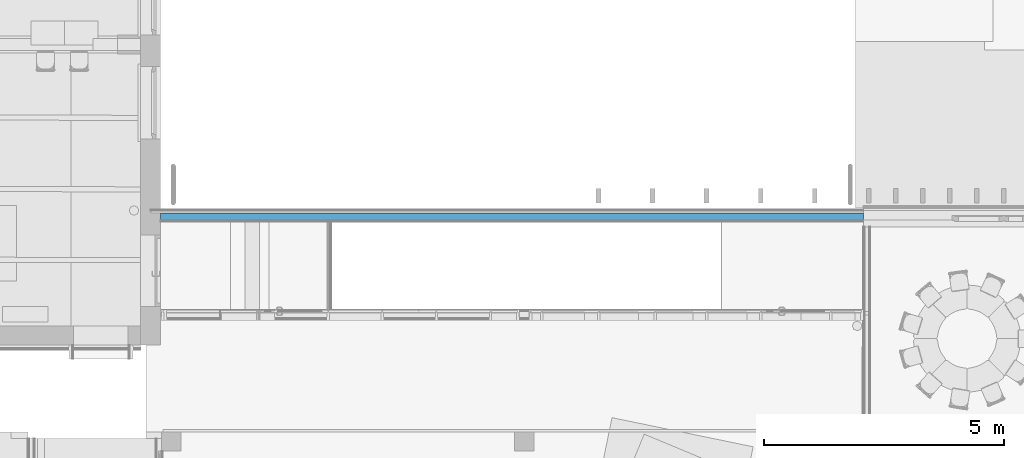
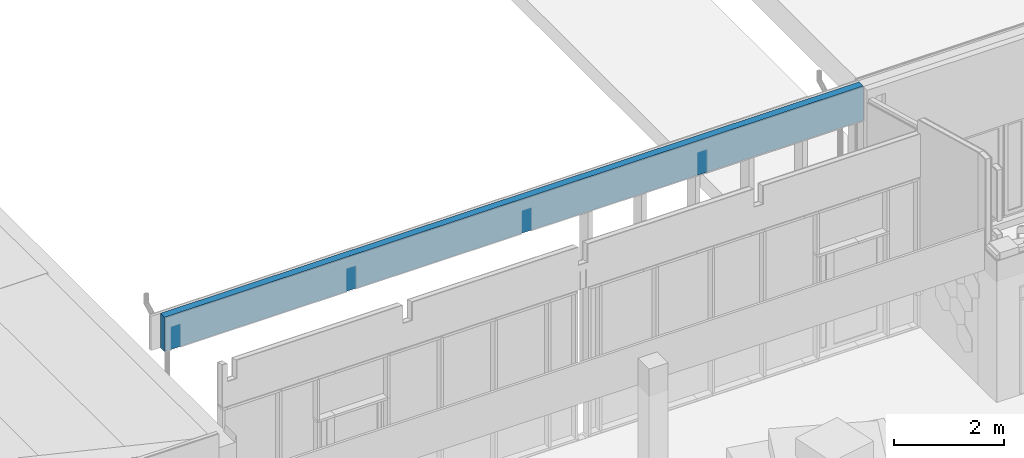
# One storey, part 65 of 153: 1 building element part, 1 element without a shape of its own.
"""IFC2X3 building model written with IfcOpenShell, lengths in millimetres."""

from ifc_helpers import new_model, entity, si_unit, converted_unit, derived_unit, money_unit, direction, frame, origin_with_axes, place, context, subcontext, project, spatial, faceted_brep, material, type_object, element, aggregate, save


model = new_model("IFC2X3")

# Units and contexts
model_context = context("Model", 3, precision=0.01, world=origin_with_axes(), true_north=direction((0.0, 1.0)))
body_context = subcontext(model_context, "Body", "Model", "MODEL_VIEW")
ifc_project = project(units=[si_unit("LENGTHUNIT", "METRE", prefix="MILLI"), si_unit("AREAUNIT", "SQUARE_METRE"), si_unit("VOLUMEUNIT", "CUBIC_METRE"), converted_unit("PLANEANGLEUNIT", "DEGREE", entity("IfcPlaneAngleMeasure", 0.0174532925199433), si_unit("PLANEANGLEUNIT", "RADIAN"), dimensions=[0, 0, 0, 0, 0, 0, 0]), money_unit("EUR"), converted_unit("TIMEUNIT", "Year", entity("IfcTimeMeasure", 31557600.0), si_unit("TIMEUNIT", "SECOND"), dimensions=[0, 0, 1, 0, 0, 0, 0]), si_unit("MASSUNIT", "GRAM", prefix="KILO"), si_unit("THERMODYNAMICTEMPERATUREUNIT", "DEGREE_CELSIUS"), si_unit("LUMINOUSINTENSITYUNIT", "LUMEN"), si_unit("ENERGYUNIT", "JOULE", prefix="MEGA"), derived_unit("THERMALCONDUCTANCEUNIT", [(si_unit("POWERUNIT", "WATT"), 1), (si_unit("LENGTHUNIT", "METRE"), -1), (si_unit("THERMODYNAMICTEMPERATUREUNIT", "KELVIN"), -1)]), derived_unit("SPECIFICHEATCAPACITYUNIT", [(si_unit("ENERGYUNIT", "JOULE"), 1), (si_unit("MASSUNIT", "GRAM", prefix="KILO"), -1), (si_unit("THERMODYNAMICTEMPERATUREUNIT", "KELVIN"), -1)]), derived_unit("MASSDENSITYUNIT", [(si_unit("MASSUNIT", "GRAM", prefix="KILO"), 1), (si_unit("VOLUMEUNIT", "CUBIC_METRE"), -1)])], contexts=[model_context])

# Site, building, storey
site_placement = place(None, frame((0.0, 0.0, 8650.0), z_axis=(0.0, 0.0, 1.0), x_axis=(1.0, 0.0, 0.0)))
site = spatial("IfcSite", under=ifc_project, at=site_placement, Name="43301:001:0844", CompositionType="ELEMENT")
building_placement = place(site_placement, origin_with_axes())
building = spatial("IfcBuilding", under=site, at=building_placement, Name="Kuressaare Ametikooli tuulikute mehaanikute õppekorpus", CompositionType="ELEMENT")
storey_placement = place(building_placement, frame((0.0, 0.0, 4100.0), z_axis=(0.0, 0.0, 1.0), x_axis=(1.0, 0.0, 0.0)))
storey = spatial("IfcBuildingStorey", under=building, at=storey_placement, Name="2.korrus", CompositionType="ELEMENT", Elevation=4100.0)

# Wall, building element part
wall_type = type_object("IfcWallType", Name="VS_klaasfassaadi peal 246", PredefinedType="NOTDEFINED")
wall_placement = place(storey_placement, frame((103647.5122070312, 28356.59477213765, 3332.284635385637), z_axis=(0.0, 0.0, 1.0), x_axis=(1.0, 0.0, 0.0)))
wall = element("IfcWall", 1, at=wall_placement, inside=storey, type_object=wall_type, Name="Välissein")
ifc_material = material(Name="Soojustus - Mineraalvill pehme")
building_element_part_placement = place(wall_placement, origin_with_axes())
building_element_part = element("IfcBuildingElementPart", 2, at=building_element_part_placement, material=ifc_material, Name="Soojustus - Mineraalvill pehme", context=body_context, shape_type="Brep", body=[
    faceted_brep([(12414.58518066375, 132.9732973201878, 0.0), (12414.58518066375, 22.99999999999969, 0.0), (11345.43716757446, 22.99999999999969, 0.0), (11345.43716757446, 27.4760278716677, 0.0), (11145.43716757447, 27.4760278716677, 0.0), (11145.43716757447, 22.99999999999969, 0.0), (10314.58518066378, 22.99999999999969, 0.0), (10314.58518066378, 132.9732973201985, 0.0), (10311.90568873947, 142.9732973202, 0.0), (10304.58518066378, 150.2938053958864, 0.0), (10294.58518066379, 152.973297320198, 0.0), (10184.58518066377, 152.973297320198, 0.0), (10174.58518066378, 150.2938053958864, 0.0), (10167.26467258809, 142.9732973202, 0.0), (10164.58518066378, 132.9732973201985, 0.0), (10164.58518066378, 22.99999999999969, 0.0), (8069.593654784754, 22.99999999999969, 0.0), (8069.593654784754, 132.9732973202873, 0.0), (8066.914162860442, 142.9732973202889, 0.0), (8059.593654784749, 150.2938053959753, 0.0), (8049.593654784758, 152.9732973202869, 0.0), (7939.593654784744, 152.9732973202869, 0.0), (7929.593654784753, 150.2938053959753, 0.0), (7922.27314670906, 142.9732973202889, 0.0), (7919.593654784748, 132.9732973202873, 0.0), (7919.593654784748, 22.99999999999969, 0.0), (7670.437167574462, 22.99999999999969, 0.0), (7670.437167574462, 27.48078871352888, 0.0), (7470.437167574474, 27.48078871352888, 0.0), (7470.437167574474, 22.99999999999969, 0.0), (5819.585180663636, 22.99999999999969, 0.0), (5819.585180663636, 132.9732973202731, 0.0), (5816.905688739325, 142.9732973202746, 0.0), (5809.585180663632, 150.293805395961, 0.0), (5799.585180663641, 152.9732973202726, 0.0), (5689.585180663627, 152.9732973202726, 0.0), (5679.585180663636, 150.293805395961, 0.0), (5672.264672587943, 142.9732973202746, 0.0), (5669.585180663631, 132.9732973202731, 0.0), (5669.585180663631, 22.99999999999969, 0.0), (3995.437167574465, 22.99999999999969, 0.0), (3995.437167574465, 27.48078871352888, 0.0), (3795.437167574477, 27.48078871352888, 0.0), (3795.437167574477, 22.99999999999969, 0.0), (3569.585180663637, 22.99999999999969, 0.0), (3569.585180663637, 132.9732973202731, 0.0), (3566.905688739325, 142.9732973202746, 0.0), (3559.585180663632, 150.293805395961, 0.0), (3549.585180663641, 152.9732973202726, 0.0), (3439.585180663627, 152.9732973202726, 0.0), (3429.585180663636, 150.293805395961, 0.0), (3422.264672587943, 142.9732973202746, 0.0), (3419.585180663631, 132.9732973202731, 0.0), (3419.585180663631, 22.99999999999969, 0.0), (320.439934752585, 22.99999999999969, 0.0), (320.439934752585, 27.47602787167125, 0.0), (169.5851806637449, 27.47602787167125, 0.0), (169.5851806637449, 132.9732973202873, 0.0), (166.9056887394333, 142.9732973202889, 0.0), (159.5851806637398, 150.2938053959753, 0.0), (149.5851806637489, 152.9732973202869, 0.0), (39.58518066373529, 152.9732973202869, 0.0), (29.58518066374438, 150.2938053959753, 0.0), (22.26467258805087, 142.9732973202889, 0.0), (19.58518066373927, 132.9732973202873, 0.0), (19.58518066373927, 22.99999999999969, 0.0), (2.764821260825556e-06, 22.99999999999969, 0.0), (-8.989417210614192e-05, 172.9999999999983, 0.0), (14633.76352335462, 173.0000000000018, 0.0), (14633.76352335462, 22.99999999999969, 0.0), (12564.58518066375, 22.99999999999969, 0.0), (12564.58518066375, 132.9732973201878, 0.0), (12561.90568873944, 142.9732973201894, 0.0), (12554.58518066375, 150.2938053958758, 0.0), (12544.58518066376, 152.9732973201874, 0.0), (12434.58518066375, 152.9732973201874, 0.0), (12424.58518066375, 150.2938053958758, 0.0), (12417.26467258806, 142.9732973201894, 0.0), (12414.58518066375, 132.9732973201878, 17.7153646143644), (12414.58518066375, 22.99999999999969, 17.7153646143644), (12564.58518066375, 22.99999999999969, 17.7153646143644), (14633.76352335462, 22.99999999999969, 762.3602261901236), (2.764821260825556e-06, 22.99999999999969, 762.3602261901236), (19.58518066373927, 22.99999999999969, 17.7153646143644), (27.58518066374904, 22.99999999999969, 17.7153646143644), (27.58518066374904, 22.99999999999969, 0.0), (120.4399347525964, 22.99999999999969, 0.0), (120.4399347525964, 22.99999999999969, 512.2518524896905), (320.439934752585, 22.99999999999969, 512.2518524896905), (3419.585180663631, 22.99999999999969, 17.7153646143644), (3427.585180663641, 22.99999999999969, 17.7153646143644), (3427.585180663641, 22.99999999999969, 0.0), (3561.585180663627, 22.99999999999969, 0.0), (3561.585180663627, 22.99999999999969, 17.7153646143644), (3569.585180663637, 22.99999999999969, 17.7153646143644), (3795.437167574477, 22.99999999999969, 512.2531281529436), (3995.437167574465, 22.99999999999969, 512.2531281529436), (5669.585180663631, 22.99999999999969, 17.7153646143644), (5677.585180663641, 22.99999999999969, 17.7153646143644), (5677.585180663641, 22.99999999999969, 0.0), (5811.585180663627, 22.99999999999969, 0.0), (5811.585180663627, 22.99999999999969, 17.7153646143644), (5819.585180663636, 22.99999999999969, 17.7153646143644), (7470.437167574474, 22.99999999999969, 512.2531281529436), (7670.437167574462, 22.99999999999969, 512.2531281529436), (7919.593654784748, 22.99999999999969, 17.7153646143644), (7927.593654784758, 22.99999999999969, 17.7153646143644), (7927.593654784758, 22.99999999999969, 0.0), (8061.593654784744, 22.99999999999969, 0.0), (8061.593654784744, 22.99999999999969, 17.7153646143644), (8069.593654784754, 22.99999999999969, 17.7153646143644), (10164.58518066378, 22.99999999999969, 17.7153646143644), (10172.58518066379, 22.99999999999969, 17.7153646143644), (10172.58518066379, 22.99999999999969, 0.0), (10306.58518066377, 22.99999999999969, 0.0), (10306.58518066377, 22.99999999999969, 17.7153646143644), (10314.58518066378, 22.99999999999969, 17.7153646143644), (11145.43716757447, 22.99999999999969, 512.2518524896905), (11345.43716757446, 22.99999999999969, 512.2518524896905), (12422.58518066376, 22.99999999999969, 17.7153646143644), (12422.58518066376, 22.99999999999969, 0.0), (12556.58518066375, 22.99999999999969, 0.0), (12556.58518066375, 22.99999999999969, 17.7153646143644), (11345.43716757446, 27.4760278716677, 511.052504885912), (11145.43716757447, 27.4760278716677, 511.052504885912), (10314.58518066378, 132.9732973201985, 17.7153646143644), (10311.90568873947, 142.9732973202, 17.7153646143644), (10304.58518066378, 150.2938053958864, 17.7153646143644), (10294.58518066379, 152.973297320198, 17.7153646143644), (10184.58518066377, 152.973297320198, 17.7153646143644), (10174.58518066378, 150.2938053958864, 17.7153646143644), (10167.26467258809, 142.9732973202, 17.7153646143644), (10164.58518066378, 132.9732973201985, 17.7153646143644), (8069.593654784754, 132.9732973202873, 17.7153646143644), (8066.914162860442, 142.9732973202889, 17.7153646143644), (8059.593654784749, 150.2938053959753, 17.7153646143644), (8049.593654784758, 152.9732973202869, 17.7153646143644), (7939.593654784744, 152.9732973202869, 17.7153646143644), (7929.593654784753, 150.2938053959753, 17.7153646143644), (7922.27314670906, 142.9732973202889, 17.7153646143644), (7919.593654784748, 132.9732973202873, 17.7153646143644), (7670.437167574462, 27.48078871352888, 511.0525048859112), (7470.437167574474, 27.48078871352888, 511.0525048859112), (5819.585180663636, 132.9732973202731, 17.7153646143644), (5816.905688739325, 142.9732973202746, 17.7153646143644), (5809.585180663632, 150.293805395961, 17.7153646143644), (5799.585180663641, 152.9732973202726, 17.7153646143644), (5689.585180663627, 152.9732973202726, 17.7153646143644), (5679.585180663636, 150.293805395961, 17.7153646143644), (5672.264672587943, 142.9732973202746, 17.7153646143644), (5669.585180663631, 132.9732973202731, 17.7153646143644), (3995.437167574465, 27.48078871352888, 511.0525048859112), (3795.437167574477, 27.48078871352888, 511.0525048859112), (3569.585180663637, 132.9732973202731, 17.7153646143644), (3566.905688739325, 142.9732973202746, 17.7153646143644), (3559.585180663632, 150.293805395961, 17.7153646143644), (3549.585180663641, 152.9732973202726, 17.7153646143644), (3439.585180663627, 152.9732973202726, 17.7153646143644), (3429.585180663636, 150.293805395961, 17.7153646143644), (3422.264672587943, 142.9732973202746, 17.7153646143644), (3419.585180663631, 132.9732973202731, 17.7153646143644), (320.439934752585, 27.47602787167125, 511.0525048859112), (169.5851806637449, 27.47602787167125, 17.7153646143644), (120.4399347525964, 27.47602787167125, 511.0525048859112), (120.4399347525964, 27.47602787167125, 0.0), (161.5851806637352, 27.47602787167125, 0.0), (161.5851806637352, 27.47602787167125, 17.7153646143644), (169.5851806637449, 132.9732973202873, 17.7153646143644), (166.9056887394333, 142.9732973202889, 17.7153646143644), (159.5851806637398, 150.2938053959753, 17.7153646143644), (149.5851806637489, 152.9732973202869, 17.7153646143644), (39.58518066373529, 152.9732973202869, 17.7153646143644), (29.58518066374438, 150.2938053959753, 17.7153646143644), (22.26467258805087, 142.9732973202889, 17.7153646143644), (19.58518066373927, 132.9732973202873, 17.7153646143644), (-8.989417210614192e-05, 173.0000000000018, 762.3602261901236), (14633.76352335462, 173.0000000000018, 762.3602261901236), (12564.58518066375, 132.9732973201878, 17.7153646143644), (12561.90568873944, 142.9732973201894, 17.7153646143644), (12554.58518066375, 150.2938053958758, 17.7153646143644), (12544.58518066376, 152.9732973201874, 17.7153646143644), (12434.58518066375, 152.9732973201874, 17.7153646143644), (12424.58518066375, 150.2938053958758, 17.7153646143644), (12417.26467258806, 142.9732973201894, 17.7153646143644), (12556.58518066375, 132.9732973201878, 17.7153646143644), (12553.07046203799, 141.4585786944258, 17.7153646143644), (12544.58518066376, 144.9732973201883, 17.7153646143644), (12434.58518066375, 144.9732973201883, 17.7153646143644), (12426.09989928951, 141.4585786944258, 17.7153646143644), (12422.58518066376, 132.9732973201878, 17.7153646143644), (161.5851806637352, 132.9732973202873, 17.7153646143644), (158.0704620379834, 141.4585786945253, 17.7153646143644), (149.5851806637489, 144.9732973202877, 17.7153646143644), (39.58518066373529, 144.9732973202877, 17.7153646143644), (31.09989928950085, 141.4585786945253, 17.7153646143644), (27.58518066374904, 132.9732973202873, 17.7153646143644), (27.58518066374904, 132.9732973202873, 0.0), (161.5851806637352, 132.9732973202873, 0.0), (31.09989928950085, 141.4585786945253, 0.0), (39.58518066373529, 144.9732973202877, 0.0), (149.5851806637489, 144.9732973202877, 0.0), (158.0704620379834, 141.4585786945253, 0.0), (3561.585180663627, 132.9732973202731, 17.7153646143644), (3558.070462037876, 141.4585786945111, 17.7153646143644), (3549.585180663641, 144.9732973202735, 17.7153646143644), (3439.585180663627, 144.9732973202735, 17.7153646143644), (3431.099899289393, 141.4585786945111, 17.7153646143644), (3427.585180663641, 132.9732973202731, 17.7153646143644), (3427.585180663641, 132.9732973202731, 0.0), (3561.585180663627, 132.9732973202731, 0.0), (3431.099899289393, 141.4585786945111, 0.0), (3439.585180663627, 144.9732973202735, 0.0), (3549.585180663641, 144.9732973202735, 0.0), (3558.070462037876, 141.4585786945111, 0.0), (5811.585180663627, 132.9732973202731, 17.7153646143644), (5808.070462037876, 141.4585786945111, 17.7153646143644), (5799.585180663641, 144.9732973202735, 17.7153646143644), (5689.585180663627, 144.9732973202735, 17.7153646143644), (5681.099899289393, 141.4585786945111, 17.7153646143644), (5677.585180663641, 132.9732973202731, 17.7153646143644), (5677.585180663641, 132.9732973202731, 0.0), (5811.585180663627, 132.9732973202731, 0.0), (5681.099899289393, 141.4585786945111, 0.0), (5689.585180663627, 144.9732973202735, 0.0), (5799.585180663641, 144.9732973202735, 0.0), (5808.070462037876, 141.4585786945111, 0.0), (8061.593654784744, 132.9732973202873, 17.7153646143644), (8058.078936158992, 141.4585786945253, 17.7153646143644), (8049.593654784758, 144.9732973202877, 17.7153646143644), (7939.593654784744, 144.9732973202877, 17.7153646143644), (7931.10837341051, 141.4585786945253, 17.7153646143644), (7927.593654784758, 132.9732973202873, 17.7153646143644), (7927.593654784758, 132.9732973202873, 0.0), (8061.593654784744, 132.9732973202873, 0.0), (7931.10837341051, 141.4585786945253, 0.0), (7939.593654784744, 144.9732973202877, 0.0), (8049.593654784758, 144.9732973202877, 0.0), (8058.078936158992, 141.4585786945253, 0.0), (10306.58518066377, 132.9732973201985, 17.7153646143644), (10303.07046203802, 141.4585786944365, 17.7153646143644), (10294.58518066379, 144.9732973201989, 17.7153646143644), (10184.58518066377, 144.9732973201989, 17.7153646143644), (10176.09989928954, 141.4585786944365, 17.7153646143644), (10172.58518066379, 132.9732973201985, 17.7153646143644), (10172.58518066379, 132.9732973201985, 0.0), (10306.58518066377, 132.9732973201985, 0.0), (10176.09989928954, 141.4585786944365, 0.0), (10184.58518066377, 144.9732973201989, 0.0), (10294.58518066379, 144.9732973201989, 0.0), (10303.07046203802, 141.4585786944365, 0.0), (12422.58518066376, 132.9732973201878, 0.0), (12556.58518066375, 132.9732973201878, 0.0), (12426.09989928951, 141.4585786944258, 0.0), (12434.58518066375, 144.9732973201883, 0.0), (12544.58518066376, 144.9732973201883, 0.0), (12553.07046203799, 141.4585786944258, 0.0)], [[[0, 1, 2, 3, 4, 5, 6, 7, 8, 9, 10, 11, 12, 13, 14, 15, 16, 17, 18, 19, 20, 21, 22, 23, 24, 25, 26, 27, 28, 29, 30, 31, 32, 33, 34, 35, 36, 37, 38, 39, 40, 41, 42, 43, 44, 45, 46, 47, 48, 49, 50, 51, 52, 53, 54, 55, 56, 57, 58, 59, 60, 61, 62, 63, 64, 65, 66, 67, 68, 69, 70, 71, 72, 73, 74, 75, 76, 77]], [[1, 0, 78, 79]], [[80, 70, 69, 81, 82, 66, 65, 83, 84, 85, 86, 87, 88, 54, 53, 89, 90, 91, 92, 93, 94, 44, 43, 95, 96, 40, 39, 97, 98, 99, 100, 101, 102, 30, 29, 103, 104, 26, 25, 105, 106, 107, 108, 109, 110, 16, 15, 111, 112, 113, 114, 115, 116, 6, 5, 117, 118, 2, 1, 79, 119, 120, 121, 122]], [[123, 3, 2, 118]], [[124, 4, 3, 123]], [[117, 5, 4, 124]], [[7, 6, 116, 125]], [[8, 7, 125, 126]], [[9, 8, 126, 127]], [[10, 9, 127, 128]], [[11, 10, 128, 129]], [[12, 11, 129, 130]], [[13, 12, 130, 131]], [[14, 13, 131, 132]], [[15, 14, 132, 111]], [[17, 16, 110, 133]], [[18, 17, 133, 134]], [[19, 18, 134, 135]], [[20, 19, 135, 136]], [[21, 20, 136, 137]], [[22, 21, 137, 138]], [[23, 22, 138, 139]], [[24, 23, 139, 140]], [[25, 24, 140, 105]], [[141, 27, 26, 104]], [[142, 28, 27, 141]], [[103, 29, 28, 142]], [[31, 30, 102, 143]], [[32, 31, 143, 144]], [[33, 32, 144, 145]], [[34, 33, 145, 146]], [[35, 34, 146, 147]], [[36, 35, 147, 148]], [[37, 36, 148, 149]], [[38, 37, 149, 150]], [[39, 38, 150, 97]], [[151, 41, 40, 96]], [[152, 42, 41, 151]], [[95, 43, 42, 152]], [[45, 44, 94, 153]], [[46, 45, 153, 154]], [[47, 46, 154, 155]], [[48, 47, 155, 156]], [[49, 48, 156, 157]], [[50, 49, 157, 158]], [[51, 50, 158, 159]], [[52, 51, 159, 160]], [[53, 52, 160, 89]], [[161, 55, 54, 88]], [[162, 56, 55, 161, 163, 164, 165, 166]], [[57, 56, 162, 167]], [[58, 57, 167, 168]], [[59, 58, 168, 169]], [[60, 59, 169, 170]], [[61, 60, 170, 171]], [[62, 61, 171, 172]], [[63, 62, 172, 173]], [[64, 63, 173, 174]], [[65, 64, 174, 83]], [[67, 66, 82, 175]], [[67, 175, 176, 68]], [[68, 176, 81, 69]], [[71, 70, 80, 177]], [[72, 71, 177, 178]], [[73, 72, 178, 179]], [[74, 73, 179, 180]], [[75, 74, 180, 181]], [[76, 75, 181, 182]], [[77, 76, 182, 183]], [[0, 77, 183, 78]], [[80, 122, 184, 185, 186, 187, 188, 189, 119, 79, 78, 183, 182, 181, 180, 179, 178, 177]], [[175, 82, 81, 176]], [[162, 166, 190, 191, 192, 193, 194, 195, 84, 83, 174, 173, 172, 171, 170, 169, 168, 167]], [[196, 85, 84, 195]], [[197, 165, 164, 86, 85, 196, 198, 199, 200, 201]], [[87, 86, 164, 163]], [[161, 88, 87, 163]], [[94, 93, 202, 203, 204, 205, 206, 207, 90, 89, 160, 159, 158, 157, 156, 155, 154, 153]], [[208, 91, 90, 207]], [[209, 92, 91, 208, 210, 211, 212, 213]], [[92, 209, 202, 93]], [[151, 96, 95, 152]], [[102, 101, 214, 215, 216, 217, 218, 219, 98, 97, 150, 149, 148, 147, 146, 145, 144, 143]], [[220, 99, 98, 219]], [[221, 100, 99, 220, 222, 223, 224, 225]], [[100, 221, 214, 101]], [[141, 104, 103, 142]], [[110, 109, 226, 227, 228, 229, 230, 231, 106, 105, 140, 139, 138, 137, 136, 135, 134, 133]], [[232, 107, 106, 231]], [[233, 108, 107, 232, 234, 235, 236, 237]], [[108, 233, 226, 109]], [[116, 115, 238, 239, 240, 241, 242, 243, 112, 111, 132, 131, 130, 129, 128, 127, 126, 125]], [[244, 113, 112, 243]], [[245, 114, 113, 244, 246, 247, 248, 249]], [[114, 245, 238, 115]], [[123, 118, 117, 124]], [[250, 120, 119, 189]], [[251, 121, 120, 250, 252, 253, 254, 255]], [[121, 251, 184, 122]], [[165, 197, 190, 166]], [[251, 255, 185, 184]], [[255, 254, 186, 185]], [[254, 253, 187, 186]], [[253, 252, 188, 187]], [[252, 250, 189, 188]], [[197, 201, 191, 190]], [[201, 200, 192, 191]], [[200, 199, 193, 192]], [[199, 198, 194, 193]], [[198, 196, 195, 194]], [[209, 213, 203, 202]], [[213, 212, 204, 203]], [[212, 211, 205, 204]], [[211, 210, 206, 205]], [[210, 208, 207, 206]], [[221, 225, 215, 214]], [[225, 224, 216, 215]], [[224, 223, 217, 216]], [[223, 222, 218, 217]], [[222, 220, 219, 218]], [[233, 237, 227, 226]], [[237, 236, 228, 227]], [[236, 235, 229, 228]], [[235, 234, 230, 229]], [[234, 232, 231, 230]], [[245, 249, 239, 238]], [[249, 248, 240, 239]], [[248, 247, 241, 240]], [[247, 246, 242, 241]], [[246, 244, 243, 242]]]),
])
aggregate(wall, [building_element_part])

save(model, "model.ifc")
